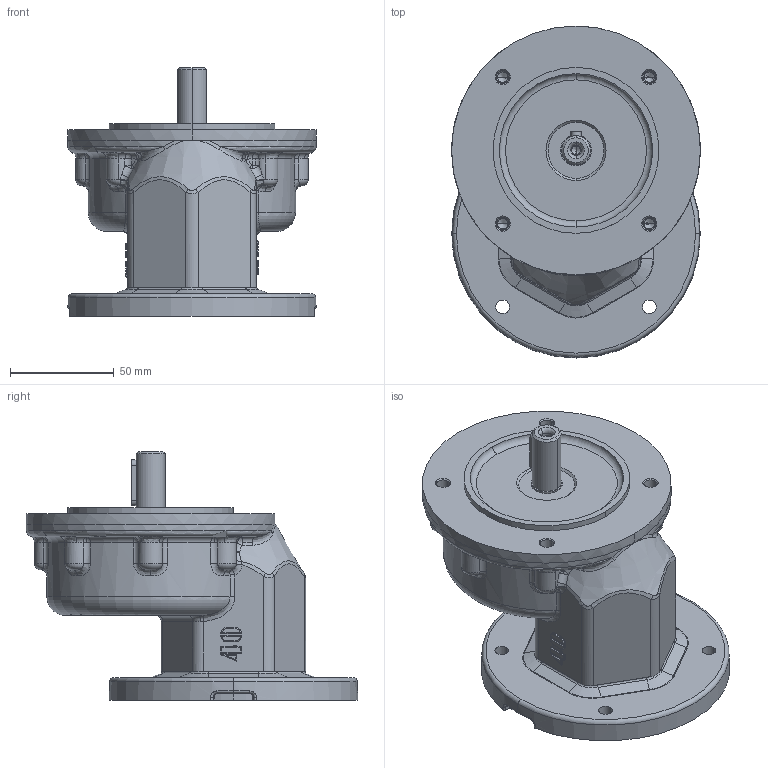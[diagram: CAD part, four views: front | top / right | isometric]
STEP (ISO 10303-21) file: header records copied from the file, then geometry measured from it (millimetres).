
FILE_DESCRIPTION (( 'STEP AP214' ), '1' );
FILE_NAME ('ATC40-f100-ap80.STEP', '2010-01-28T09:20:27', ( '' ), ( '' ), 'SwSTEP 2.0', 'SolidWorks 2003240', '' );
FILE_SCHEMA (( 'AUTOMOTIVE_DESIGN' ));
Length unit declared in the file: millimetre
Products named in the file (4): ATC40-f100-ap80; D6912_Šroub DIN 6912 - M5x16; pøíruba 100 d52 MRT50a_priruba 85-MRT50; ATC40_ATC40-AP80
Assembly tree (8 placements, depth 2):
  ATC40-f100-ap80
    D6912_Šroub DIN 6912 - M5x16  x6
    pøíruba 100 d52 MRT50a_priruba 85-MRT50
    ATC40_ATC40-AP80
Bounding box: 120 x 160 x 120 mm (x, y, z)
Volume: 636461.3 mm3; surface area: 89478.5 mm2
Topology: 8 solids, 8 shells, 950 faces, 2094 edges, 1168 vertices
Faces by surface type: cylinder 232, plane 209, torus 201, cone 186, bspline 104, sphere 18
Entity records: 112111 total; most frequent: CARTESIAN_POINT 94782, DIRECTION 3749, ORIENTED_EDGE 3464, EDGE_CURVE 1732, AXIS2_PLACEMENT_3D 1619, VERTEX_POINT 1011, CIRCLE 947, EDGE_LOOP 825
